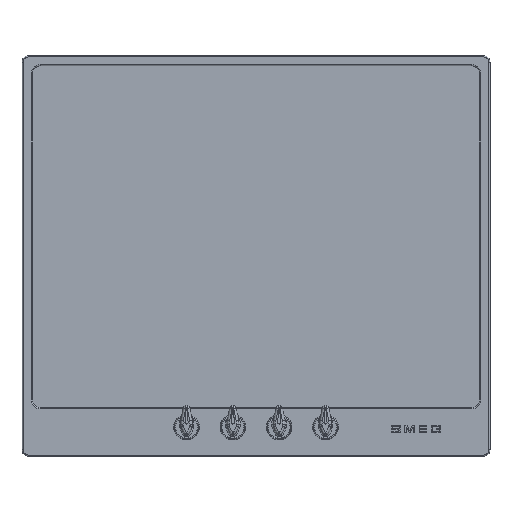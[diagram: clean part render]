
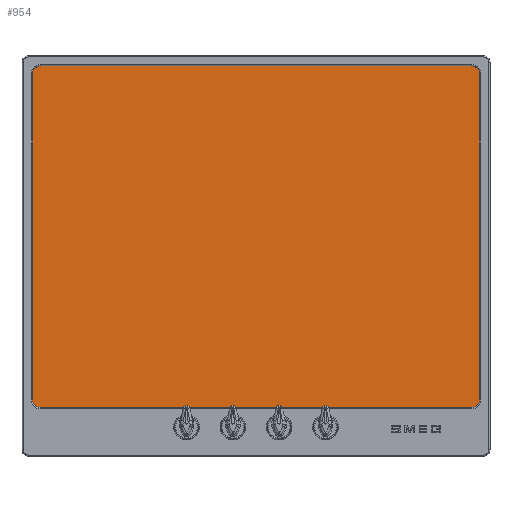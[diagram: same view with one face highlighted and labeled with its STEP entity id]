
A CAD part, top view. The second image highlights one B-rep face of the part: STEP entity #954.
In plain terms, the highlighted planar face has unit normal (0, 0, 1).
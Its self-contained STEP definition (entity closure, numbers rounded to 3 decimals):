
#525=PLANE('',#7308);
#954=ADVANCED_FACE('',(#1453),#525,.T.);
#1453=FACE_OUTER_BOUND('',#1864,.T.);
#1864=EDGE_LOOP('',(#4578,#4579,#4580,#4581,#4582,#4583,#4584,#4585));
#2213=CIRCLE('',#7304,5.);
#2214=CIRCLE('',#7305,5.);
#2215=CIRCLE('',#7306,5.);
#2216=CIRCLE('',#7307,5.);
#2677=LINE('',#12880,#3148);
#2678=LINE('',#12885,#3149);
#2679=LINE('',#12889,#3150);
#2680=LINE('',#12893,#3151);
#3148=VECTOR('',#8966,1.);
#3149=VECTOR('',#8969,1.);
#3150=VECTOR('',#8972,1.);
#3151=VECTOR('',#8975,1.);
#4578=ORIENTED_EDGE('',*,*,#6404,.F.);
#4579=ORIENTED_EDGE('',*,*,#6405,.T.);
#4580=ORIENTED_EDGE('',*,*,#6406,.F.);
#4581=ORIENTED_EDGE('',*,*,#6407,.T.);
#4582=ORIENTED_EDGE('',*,*,#6408,.F.);
#4583=ORIENTED_EDGE('',*,*,#6409,.T.);
#4584=ORIENTED_EDGE('',*,*,#6410,.F.);
#4585=ORIENTED_EDGE('',*,*,#6411,.T.);
#5561=VERTEX_POINT('',#12881);
#5562=VERTEX_POINT('',#12882);
#5563=VERTEX_POINT('',#12884);
#5564=VERTEX_POINT('',#12886);
#5565=VERTEX_POINT('',#12888);
#5566=VERTEX_POINT('',#12890);
#5567=VERTEX_POINT('',#12892);
#5568=VERTEX_POINT('',#12894);
#6404=EDGE_CURVE('',#5561,#5562,#2677,.T.);
#6405=EDGE_CURVE('',#5561,#5563,#2213,.T.);
#6406=EDGE_CURVE('',#5564,#5563,#2678,.T.);
#6407=EDGE_CURVE('',#5564,#5565,#2214,.T.);
#6408=EDGE_CURVE('',#5566,#5565,#2679,.T.);
#6409=EDGE_CURVE('',#5566,#5567,#2215,.T.);
#6410=EDGE_CURVE('',#5568,#5567,#2680,.T.);
#6411=EDGE_CURVE('',#5568,#5562,#2216,.T.);
#7304=AXIS2_PLACEMENT_3D('',#12883,#8967,#8968);
#7305=AXIS2_PLACEMENT_3D('',#12887,#8970,#8971);
#7306=AXIS2_PLACEMENT_3D('',#12891,#8973,#8974);
#7307=AXIS2_PLACEMENT_3D('',#12895,#8976,#8977);
#7308=AXIS2_PLACEMENT_3D('',#12896,#8978,#8979);
#8966=DIRECTION('',(0.,-1.,0.));
#8967=DIRECTION('',(0.,0.,1.));
#8968=DIRECTION('',(1.,0.,0.));
#8969=DIRECTION('',(1.,0.,0.));
#8970=DIRECTION('',(0.,0.,1.));
#8971=DIRECTION('',(1.,0.,0.));
#8972=DIRECTION('',(0.,1.,0.));
#8973=DIRECTION('',(0.,0.,1.));
#8974=DIRECTION('',(1.,0.,0.));
#8975=DIRECTION('',(-1.,0.,0.));
#8976=DIRECTION('',(0.,0.,1.));
#8977=DIRECTION('',(1.,0.,0.));
#8978=DIRECTION('',(0.,0.,1.));
#8979=DIRECTION('',(1.,0.,0.));
#12880=CARTESIAN_POINT('',(438.977,338.626,54.5));
#12881=CARTESIAN_POINT('',(438.977,558.126,54.5));
#12882=CARTESIAN_POINT('',(438.977,119.126,54.5));
#12883=CARTESIAN_POINT('',(433.977,558.126,54.5));
#12884=CARTESIAN_POINT('',(433.977,563.126,54.5));
#12885=CARTESIAN_POINT('',(144.977,563.126,54.5));
#12886=CARTESIAN_POINT('',(-144.023,563.126,54.5));
#12887=CARTESIAN_POINT('',(-144.023,558.126,54.5));
#12888=CARTESIAN_POINT('',(-149.023,558.126,54.5));
#12889=CARTESIAN_POINT('',(-149.023,338.626,54.5));
#12890=CARTESIAN_POINT('',(-149.023,119.126,54.5));
#12891=CARTESIAN_POINT('',(-144.023,119.126,54.5));
#12892=CARTESIAN_POINT('',(-144.023,114.126,54.5));
#12893=CARTESIAN_POINT('',(144.977,114.126,54.5));
#12894=CARTESIAN_POINT('',(433.977,114.126,54.5));
#12895=CARTESIAN_POINT('',(433.977,119.126,54.5));
#12896=CARTESIAN_POINT('',(144.977,338.626,54.5));
